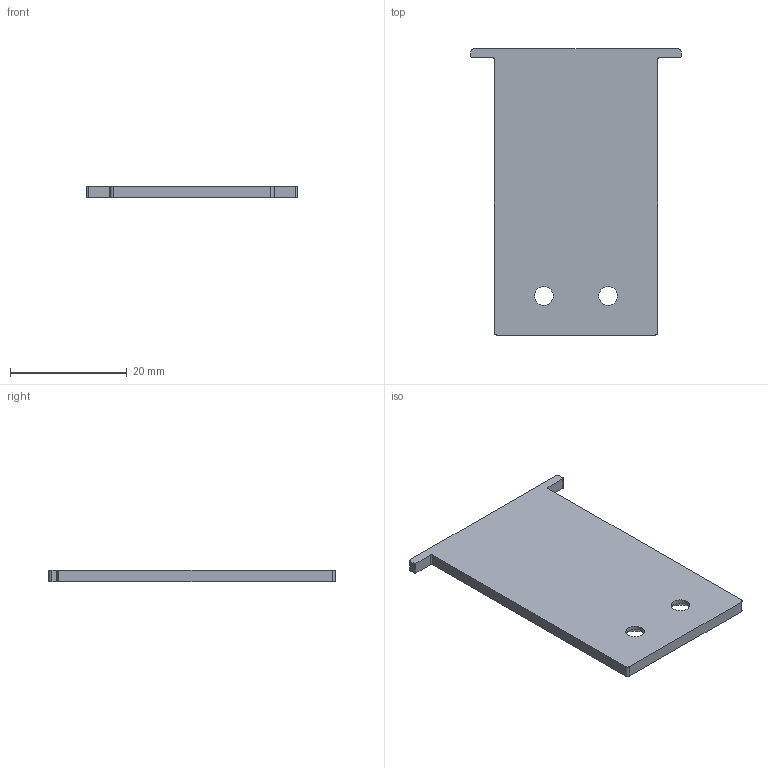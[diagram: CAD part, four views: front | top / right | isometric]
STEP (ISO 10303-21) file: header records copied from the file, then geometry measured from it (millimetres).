
FILE_DESCRIPTION(/* description */ ('Unknown'),/* implementation_level */ '2;1');
FILE_NAME(/* name */ '98465',/* time_stamp */ '2023-02-07T07:50:17-05:00',/* author */ ('Unknown'),/* organization */ ('Unknown'),/* preprocessor_version */ 'ST-DEVELOPER v18.1',/* originating_system */ 'Solid Edge',/* authorisation */ 'Unknown');
FILE_SCHEMA (('AUTOMOTIVE_DESIGN {1 0 10303 214 3 1 1}'));
Length unit declared in the file: millimetre
Products named in the file (1): LED-TAP140
Bounding box: 36 x 49 x 2 mm (x, y, z)
Volume: 2713.8 mm3; surface area: 3102.3 mm2
Topology: 1 solids, 1 shells, 22 faces, 60 edges, 40 vertices
Faces by surface type: cylinder 10, plane 10, cone 2
Full cylindrical faces by diameter (mm): 3.2 x2
Entity records: 706 total; most frequent: DIRECTION 122, CARTESIAN_POINT 115, ORIENTED_EDGE 108, EDGE_CURVE 54, AXIS2_PLACEMENT_3D 45, VERTEX_POINT 38, LINE 32, VECTOR 32
